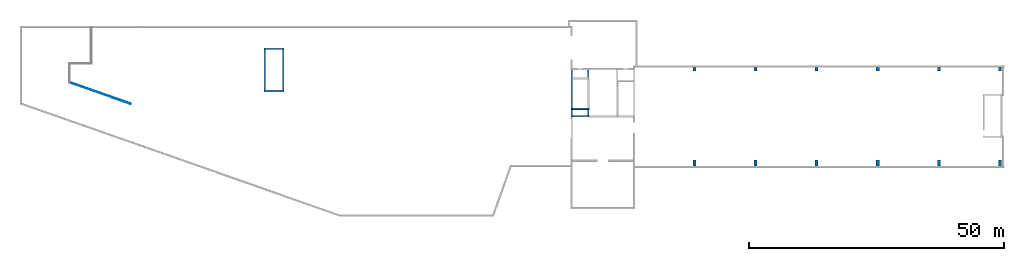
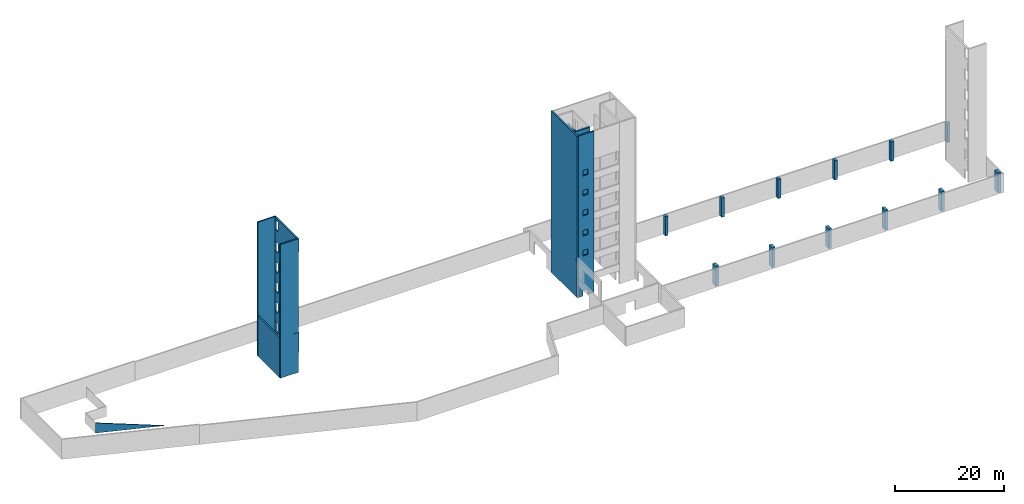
# One storey, part 1 of 4: 12 columns, 10 slabs.
"""IFC2X3 building model written with IfcOpenShell, lengths in millimetres."""

from ifc_helpers import new_model, si_unit, origin, place, context, project, spatial, faceted_brep, material, element, save


model = new_model("IFC2X3")

# Units and contexts
context_of_model = context(None, 3, precision=1e-05, world=origin())
ifc_project = project(units=[si_unit("LENGTHUNIT", "METRE", prefix="MILLI")], contexts=[context_of_model])

# Building, storey
building = spatial("IfcBuilding", under=ifc_project, Name="Building", CompositionType="ELEMENT")
storey = spatial("IfcBuildingStorey", under=building, Name="SHRWLS", CompositionType="ELEMENT")

# Columns
ifc_material_1 = material(Name="C5000")
column_1_placement = place(None, origin())
element("IfcColumn", 1, at=column_1_placement, inside=storey, material=ifc_material_1, Name="B788", context=context_of_model, shape_type="Brep", body=[
    faceted_brep([(72304.8, 26763.4, -4500.0), (72304.8, 27500.0, -4500.0), (72304.8, 27500.0, -152.4), (72304.8, 26763.4, -152.4), (71695.2, 27500.0, -4500.0), (71695.2, 27500.0, -152.4), (71695.2, 26763.4, -4500.0), (71695.2, 26763.4, -152.4)], [[[0, 1, 2, 3]], [[1, 4, 5, 2]], [[4, 6, 7, 5]], [[6, 0, 3, 7]], [[0, 6, 4, 1]], [[3, 2, 5, 7]]]),
])
ifc_material_2 = material(Name="C5000")
column_2_placement = place(None, origin())
element("IfcColumn", 2, at=column_2_placement, inside=storey, material=ifc_material_2, Name="B789", context=context_of_model, shape_type="Brep", body=[
    faceted_brep([(60304.8, 26763.4, -4500.0), (60304.8, 27500.0, -4500.0), (60304.8, 27500.0, -152.4), (60304.8, 26763.4, -152.4), (59695.2, 27500.0, -4500.0), (59695.2, 27500.0, -152.4), (59695.2, 26763.4, -4500.0), (59695.2, 26763.4, -152.4)], [[[0, 1, 2, 3]], [[1, 4, 5, 2]], [[4, 6, 7, 5]], [[6, 0, 3, 7]], [[0, 6, 4, 1]], [[3, 2, 5, 7]]]),
])
ifc_material_3 = material(Name="C5000")
column_3_placement = place(None, origin())
element("IfcColumn", 3, at=column_3_placement, inside=storey, material=ifc_material_3, Name="B790", context=context_of_model, shape_type="Brep", body=[
    faceted_brep([(48304.8, 26763.4, -4500.0), (48304.8, 27500.0, -4500.0), (48304.8, 27500.0, -152.4), (48304.8, 26763.4, -152.4), (47695.2, 27500.0, -4500.0), (47695.2, 27500.0, -152.4), (47695.2, 26763.4, -4500.0), (47695.2, 26763.4, -152.4)], [[[0, 1, 2, 3]], [[1, 4, 5, 2]], [[4, 6, 7, 5]], [[6, 0, 3, 7]], [[0, 6, 4, 1]], [[3, 2, 5, 7]]]),
])
ifc_material_4 = material(Name="C5000")
column_4_placement = place(None, origin())
element("IfcColumn", 4, at=column_4_placement, inside=storey, material=ifc_material_4, Name="B791", context=context_of_model, shape_type="Brep", body=[
    faceted_brep([(36304.8, 26763.4, -4500.0), (36304.8, 27500.0, -4500.0), (36304.8, 27500.0, -152.4), (36304.8, 26763.4, -152.4), (35695.2, 27500.0, -4500.0), (35695.2, 27500.0, -152.4), (35695.2, 26763.4, -4500.0), (35695.2, 26763.4, -152.4)], [[[0, 1, 2, 3]], [[1, 4, 5, 2]], [[4, 6, 7, 5]], [[6, 0, 3, 7]], [[0, 6, 4, 1]], [[3, 2, 5, 7]]]),
])
ifc_material_5 = material(Name="C5000")
column_5_placement = place(None, origin())
element("IfcColumn", 5, at=column_5_placement, inside=storey, material=ifc_material_5, Name="B792", context=context_of_model, shape_type="Brep", body=[
    faceted_brep([(24304.8, 26763.4, -4500.0), (24304.8, 27500.0, -4500.0), (24304.8, 27500.0, -152.4), (24304.8, 26763.4, -152.4), (23695.2, 27500.0, -4500.0), (23695.2, 27500.0, -152.4), (23695.2, 26763.4, -4500.0), (23695.2, 26763.4, -152.4)], [[[0, 1, 2, 3]], [[1, 4, 5, 2]], [[4, 6, 7, 5]], [[6, 0, 3, 7]], [[0, 6, 4, 1]], [[3, 2, 5, 7]]]),
])
ifc_material_6 = material(Name="C3000")
column_6_placement = place(None, origin())
element("IfcColumn", 6, at=column_6_placement, inside=storey, material=ifc_material_6, Name="B795", context=context_of_model, shape_type="Brep", body=[
    faceted_brep([(72304.8, 8100.0, -4500.0), (72304.8, 9293.8, -4500.0), (72304.8, 9293.8, 0.0), (72304.8, 8100.0, 0.0), (71695.2, 9293.8, -4500.0), (71695.2, 9293.8, 0.0), (71695.2, 8100.0, -4500.0), (71695.2, 8100.0, 0.0)], [[[0, 1, 2, 3]], [[1, 4, 5, 2]], [[4, 6, 7, 5]], [[6, 0, 3, 7]], [[0, 6, 4, 1]], [[3, 2, 5, 7]]]),
])
ifc_material_7 = material(Name="C3000")
column_7_placement = place(None, origin())
element("IfcColumn", 7, at=column_7_placement, inside=storey, material=ifc_material_7, Name="B796", context=context_of_model, shape_type="Brep", body=[
    faceted_brep([(60304.8, 8100.0, -4500.0), (60304.8, 9293.8, -4500.0), (60304.8, 9293.8, 0.0), (60304.8, 8100.0, 0.0), (59695.2, 9293.8, -4500.0), (59695.2, 9293.8, 0.0), (59695.2, 8100.0, -4500.0), (59695.2, 8100.0, 0.0)], [[[0, 1, 2, 3]], [[1, 4, 5, 2]], [[4, 6, 7, 5]], [[6, 0, 3, 7]], [[0, 6, 4, 1]], [[3, 2, 5, 7]]]),
])
ifc_material_8 = material(Name="C3000")
column_8_placement = place(None, origin())
element("IfcColumn", 8, at=column_8_placement, inside=storey, material=ifc_material_8, Name="B797", context=context_of_model, shape_type="Brep", body=[
    faceted_brep([(48304.8, 8100.0, -4500.0), (48304.8, 9293.8, -4500.0), (48304.8, 9293.8, 0.0), (48304.8, 8100.0, 0.0), (47695.2, 9293.8, -4500.0), (47695.2, 9293.8, 0.0), (47695.2, 8100.0, -4500.0), (47695.2, 8100.0, 0.0)], [[[0, 1, 2, 3]], [[1, 4, 5, 2]], [[4, 6, 7, 5]], [[6, 0, 3, 7]], [[0, 6, 4, 1]], [[3, 2, 5, 7]]]),
])
ifc_material_9 = material(Name="C3000")
column_9_placement = place(None, origin())
element("IfcColumn", 9, at=column_9_placement, inside=storey, material=ifc_material_9, Name="B798", context=context_of_model, shape_type="Brep", body=[
    faceted_brep([(36304.8, 8100.0, -4500.0), (36304.8, 9293.8, -4500.0), (36304.8, 9293.8, 0.0), (36304.8, 8100.0, 0.0), (35695.2, 9293.8, -4500.0), (35695.2, 9293.8, 0.0), (35695.2, 8100.0, -4500.0), (35695.2, 8100.0, 0.0)], [[[0, 1, 2, 3]], [[1, 4, 5, 2]], [[4, 6, 7, 5]], [[6, 0, 3, 7]], [[0, 6, 4, 1]], [[3, 2, 5, 7]]]),
])
ifc_material_10 = material(Name="C3000")
column_10_placement = place(None, origin())
element("IfcColumn", 10, at=column_10_placement, inside=storey, material=ifc_material_10, Name="B799", context=context_of_model, shape_type="Brep", body=[
    faceted_brep([(24304.8, 8100.0, -4500.0), (24304.8, 9293.8, -4500.0), (24304.8, 9293.8, 0.0), (24304.8, 8100.0, 0.0), (23695.2, 9293.8, -4500.0), (23695.2, 9293.8, 0.0), (23695.2, 8100.0, -4500.0), (23695.2, 8100.0, 0.0)], [[[0, 1, 2, 3]], [[1, 4, 5, 2]], [[4, 6, 7, 5]], [[6, 0, 3, 7]], [[0, 6, 4, 1]], [[3, 2, 5, 7]]]),
])
ifc_material_11 = material(Name="C3000")
column_11_placement = place(None, origin())
element("IfcColumn", 11, at=column_11_placement, inside=storey, material=ifc_material_11, Name="B1119", context=context_of_model, shape_type="Brep", body=[
    faceted_brep([(84304.8, 8100.0, -4500.0), (84304.8, 9293.8, -4500.0), (84304.8, 9293.8, 0.0), (84304.8, 8100.0, 0.0), (83695.2, 9293.8, -4500.0), (83695.2, 9293.8, 0.0), (83695.2, 8100.0, -4500.0), (83695.2, 8100.0, 0.0)], [[[0, 1, 2, 3]], [[1, 4, 5, 2]], [[4, 6, 7, 5]], [[6, 0, 3, 7]], [[0, 6, 4, 1]], [[3, 2, 5, 7]]]),
])
ifc_material_12 = material(Name="C5000")
column_12_placement = place(None, origin())
element("IfcColumn", 12, at=column_12_placement, inside=storey, material=ifc_material_12, Name="B1120", context=context_of_model, shape_type="Brep", body=[
    faceted_brep([(84304.8, 26763.4, -4500.0), (84304.8, 27500.0, -4500.0), (84304.8, 27500.0, -152.4), (84304.8, 26763.4, -152.4), (83695.2, 27500.0, -4500.0), (83695.2, 27500.0, -152.4), (83695.2, 26763.4, -4500.0), (83695.2, 26763.4, -152.4)], [[[0, 1, 2, 3]], [[1, 4, 5, 2]], [[4, 6, 7, 5]], [[6, 0, 3, 7]], [[0, 6, 4, 1]], [[3, 2, 5, 7]]]),
])

# Slabs
ifc_material_13 = material(Name="C5000")
slab_1_placement = place(None, origin())
element("IfcSlab", 13, at=slab_1_placement, inside=storey, material=ifc_material_13, Name="Wall84", PredefinedType="FLOOR", context=context_of_model, shape_type="Brep", body=[
    faceted_brep([(-60568.0, 23000.0, -1.38778e-14), (-60568.0, 23000.0, -4500.0), (-60268.0, 23000.0, -4500.0), (-60268.0, 23000.0, -1.38778e-14), (-60568.0, 31000.0, -4500.0), (-60268.0, 31000.0, -4500.0), (-60568.0, 31000.0, 9.4369e-13), (-60268.0, 31000.0, 9.4369e-13), (-60568.0, 31000.0, 3800.0), (-60568.0, 31000.0, 4500.0), (-60268.0, 31000.0, 4500.0), (-60268.0, 31000.0, 3800.0), (-60568.0, 23000.0, 4500.0), (-60268.0, 23000.0, 4500.0), (-60568.0, 23000.0, 3800.0), (-60268.0, 23000.0, 3800.0), (-60570.4, 31000.0, 3800.0), (-60570.4, 23000.0, 3800.0), (-60265.6, 23000.0, 3800.0), (-60265.6, 31000.0, 3800.0), (-60570.4, 23000.0, 64.0), (-60265.6, 23000.0, 64.0), (-60570.4, 23000.0, -1.38778e-14), (-60265.6, 23000.0, -1.38778e-14), (-60570.4, 31000.0, 9.4369e-13), (-60265.6, 31000.0, 9.4369e-13), (-60570.4, 31000.0, 64.0), (-60265.6, 31000.0, 64.0)], [[[0, 1, 2, 3]], [[1, 4, 5, 2]], [[4, 6, 7, 5]], [[6, 0, 3, 7]], [[3, 2, 5, 7]], [[0, 6, 4, 1]], [[8, 9, 10, 11]], [[9, 12, 13, 10]], [[12, 14, 15, 13]], [[14, 8, 11, 15]], [[11, 10, 13, 15]], [[8, 14, 12, 9]], [[16, 17, 18, 19]], [[17, 20, 21, 18]], [[20, 22, 23, 21]], [[22, 24, 25, 23]], [[24, 26, 27, 25]], [[26, 16, 19, 27]], [[19, 18, 21, 23, 25, 27]], [[16, 26, 24, 22, 20, 17]]]),
])
ifc_material_14 = material(Name="C5000")
slab_2_placement = place(None, origin())
element("IfcSlab", 14, at=slab_2_placement, inside=storey, material=ifc_material_14, Name="Wall85", PredefinedType="FLOOR", context=context_of_model, shape_type="Brep", body=[
    faceted_brep([(-60418.0, 22700.0, 25564.0), (-60418.0, 22700.0, 22500.0), (-60418.0, 23000.0, 22500.0), (-60418.0, 23000.0, 25564.0), (-56650.0, 22700.0, 22500.0), (-56650.0, 23000.0, 22500.0), (-56650.0, 22700.0, 18064.0), (-56650.0, 23000.0, 18064.0), (-56650.0, 22700.0, 13564.0), (-56650.0, 23000.0, 13564.0), (-56650.0, 22700.0, 9064.0), (-56650.0, 23000.0, 9064.0), (-56650.0, 22700.0, 4564.0), (-56650.0, 23000.0, 4564.0), (-56650.0, 22700.0, 4500.0), (-56650.0, 23000.0, 4500.0), (-60418.0, 22700.0, 4500.0), (-60418.0, 23000.0, 4500.0), (-60418.0, 22700.0, 0.0), (-60418.0, 23000.0, 0.0), (-56650.0, 22700.0, 0.0), (-56650.0, 23000.0, 0.0), (-56650.0, 22700.0, -4500.0), (-56650.0, 23000.0, -4500.0), (-60568.0, 22700.0, -4500.0), (-60568.0, 23000.0, -4500.0), (-60568.0, 22700.0, 25564.0), (-60568.0, 23000.0, 25564.0), (-56650.0, 22697.6, 22500.0), (-60418.0, 22697.6, 22500.0), (-60418.0, 23002.4, 22500.0), (-56650.0, 23002.4, 22500.0), (-60418.0, 22697.6, 25564.0), (-60418.0, 23002.4, 25564.0), (-56650.0, 22697.6, 25564.0), (-56650.0, 23002.4, 25564.0), (-56650.0, 22697.6, 0.0), (-60418.0, 22697.6, 0.0), (-60418.0, 23002.4, 0.0), (-56650.0, 23002.4, 0.0), (-60418.0, 22697.6, 4500.0), (-60418.0, 23002.4, 4500.0), (-56650.0, 22697.6, 4500.0), (-56650.0, 23002.4, 4500.0)], [[[0, 1, 2, 3]], [[1, 4, 5, 2]], [[4, 6, 7, 5]], [[6, 8, 9, 7]], [[8, 10, 11, 9]], [[10, 12, 13, 11]], [[12, 14, 15, 13]], [[14, 16, 17, 15]], [[16, 18, 19, 17]], [[18, 20, 21, 19]], [[20, 22, 23, 21]], [[22, 24, 25, 23]], [[24, 26, 27, 25]], [[26, 0, 3, 27]], [[3, 2, 5, 7, 9, 11, 13, 15, 17, 19, 21, 23, 25, 27]], [[0, 26, 24, 22, 20, 18, 16, 14, 12, 10, 8, 6, 4, 1]], [[28, 29, 30, 31]], [[29, 32, 33, 30]], [[32, 34, 35, 33]], [[34, 28, 31, 35]], [[31, 30, 33, 35]], [[28, 34, 32, 29]], [[36, 37, 38, 39]], [[37, 40, 41, 38]], [[40, 42, 43, 41]], [[42, 36, 39, 43]], [[39, 38, 41, 43]], [[36, 42, 40, 37]]]),
])
ifc_material_15 = material(Name="C5000")
slab_3_placement = place(None, origin())
element("IfcSlab", 15, at=slab_3_placement, inside=storey, material=ifc_material_15, Name="Wall86", PredefinedType="FLOOR", context=context_of_model, shape_type="Brep", body=[
    faceted_brep([(-56650.0, 22700.0, 22500.0), (-56650.0, 31300.0, 22500.0), (-56950.0, 31300.0, 22500.0), (-56950.0, 22700.0, 22500.0), (-56650.0, 31300.0, 18064.0), (-56950.0, 31300.0, 18064.0), (-56650.0, 31300.0, 13564.0), (-56950.0, 31300.0, 13564.0), (-56650.0, 31300.0, 9064.0), (-56950.0, 31300.0, 9064.0), (-56650.0, 31300.0, 4564.0), (-56950.0, 31300.0, 4564.0), (-56650.0, 31300.0, 4500.0), (-56950.0, 31300.0, 4500.0), (-56650.0, 30900.0, 4500.0), (-56950.0, 30900.0, 4500.0), (-56650.0, 30900.0, 6735.0), (-56950.0, 30900.0, 6735.0), (-56650.0, 29782.0, 6735.0), (-56950.0, 29782.0, 6735.0), (-56650.0, 29782.0, 4500.0), (-56950.0, 29782.0, 4500.0), (-56650.0, 22700.0, 4500.0), (-56950.0, 22700.0, 4500.0), (-56650.0, 22700.0, 4564.0), (-56950.0, 22700.0, 4564.0), (-56650.0, 22700.0, 9064.0), (-56950.0, 22700.0, 9064.0), (-56650.0, 22700.0, 13564.0), (-56950.0, 22700.0, 13564.0), (-56650.0, 22700.0, 18064.0), (-56950.0, 22700.0, 18064.0), (-56650.0, 29782.0, 11235.0), (-56650.0, 29782.0, 9000.0), (-56950.0, 29782.0, 9000.0), (-56950.0, 29782.0, 11235.0), (-56650.0, 30900.0, 9000.0), (-56950.0, 30900.0, 9000.0), (-56650.0, 30900.0, 11235.0), (-56950.0, 30900.0, 11235.0), (-56650.0, 29782.0, 15735.0), (-56650.0, 29782.0, 13500.0), (-56950.0, 29782.0, 13500.0), (-56950.0, 29782.0, 15735.0), (-56650.0, 30900.0, 13500.0), (-56950.0, 30900.0, 13500.0), (-56650.0, 30900.0, 15735.0), (-56950.0, 30900.0, 15735.0), (-56650.0, 29782.0, 20235.0), (-56650.0, 29782.0, 18000.0), (-56950.0, 29782.0, 18000.0), (-56950.0, 29782.0, 20235.0), (-56650.0, 30900.0, 18000.0), (-56950.0, 30900.0, 18000.0), (-56650.0, 30900.0, 20235.0), (-56950.0, 30900.0, 20235.0), (-56650.0, 30900.0, -4500.0), (-56650.0, 30900.0, -2265.0), (-56950.0, 30900.0, -2265.0), (-56950.0, 30900.0, -4500.0), (-56650.0, 29782.0, -2265.0), (-56950.0, 29782.0, -2265.0), (-56650.0, 29782.0, -4500.0), (-56950.0, 29782.0, -4500.0), (-56650.0, 22700.0, -4500.0), (-56950.0, 22700.0, -4500.0), (-56650.0, 22700.0, 0.0), (-56950.0, 22700.0, 0.0), (-56650.0, 29782.0, 0.0), (-56950.0, 29782.0, 0.0), (-56650.0, 30900.0, 0.0), (-56950.0, 30900.0, 0.0), (-56650.0, 31300.0, 0.0), (-56950.0, 31300.0, 0.0), (-56650.0, 31300.0, -4500.0), (-56950.0, 31300.0, -4500.0), (-56647.6, 31300.0, 22500.0), (-56647.6, 22700.0, 22500.0), (-56952.4, 22700.0, 22500.0), (-56952.4, 31300.0, 22500.0), (-56647.6, 22700.0, 25564.0), (-56952.4, 22700.0, 25564.0), (-56647.6, 31300.0, 25564.0), (-56952.4, 31300.0, 25564.0), (-56647.6, 29782.0, 25085.0), (-56647.6, 29782.0, 22850.0), (-56952.4, 29782.0, 22850.0), (-56952.4, 29782.0, 25085.0), (-56647.6, 30900.0, 22850.0), (-56952.4, 30900.0, 22850.0), (-56647.6, 30900.0, 25085.0), (-56952.4, 30900.0, 25085.0), (-56647.6, 22700.0, 4500.0), (-56647.6, 29782.0, 4500.0), (-56952.4, 29782.0, 4500.0), (-56952.4, 22700.0, 4500.0), (-56647.6, 30900.0, 4500.0), (-56952.4, 30900.0, 4500.0), (-56647.6, 31300.0, 4500.0), (-56952.4, 31300.0, 4500.0), (-56647.6, 31300.0, 0.0), (-56952.4, 31300.0, 0.0), (-56647.6, 30900.0, 0.0), (-56952.4, 30900.0, 0.0), (-56647.6, 30900.0, 2235.0), (-56952.4, 30900.0, 2235.0), (-56647.6, 29782.0, 2235.0), (-56952.4, 29782.0, 2235.0), (-56647.6, 29782.0, 0.0), (-56952.4, 29782.0, 0.0), (-56647.6, 22700.0, 0.0), (-56952.4, 22700.0, 0.0)], [[[0, 1, 2, 3]], [[1, 4, 5, 2]], [[4, 6, 7, 5]], [[6, 8, 9, 7]], [[8, 10, 11, 9]], [[10, 12, 13, 11]], [[12, 14, 15, 13]], [[14, 16, 17, 15]], [[16, 18, 19, 17]], [[18, 20, 21, 19]], [[20, 22, 23, 21]], [[22, 24, 25, 23]], [[24, 26, 27, 25]], [[26, 28, 29, 27]], [[28, 30, 31, 29]], [[30, 0, 3, 31]], [[32, 33, 34, 35]], [[33, 36, 37, 34]], [[36, 38, 39, 37]], [[38, 32, 35, 39]], [[40, 41, 42, 43]], [[41, 44, 45, 42]], [[44, 46, 47, 45]], [[46, 40, 43, 47]], [[48, 49, 50, 51]], [[49, 52, 53, 50]], [[52, 54, 55, 53]], [[54, 48, 51, 55]], [[3, 2, 5, 7, 9, 11, 13, 15, 17, 19, 21, 23, 25, 27, 29, 31], [35, 34, 37, 39], [43, 42, 45, 47], [51, 50, 53, 55]], [[0, 30, 28, 26, 24, 22, 20, 18, 16, 14, 12, 10, 8, 6, 4, 1], [32, 38, 36, 33], [40, 46, 44, 41], [48, 54, 52, 49]], [[56, 57, 58, 59]], [[57, 60, 61, 58]], [[60, 62, 63, 61]], [[62, 64, 65, 63]], [[64, 66, 67, 65]], [[66, 68, 69, 67]], [[68, 70, 71, 69]], [[70, 72, 73, 71]], [[72, 74, 75, 73]], [[74, 56, 59, 75]], [[59, 58, 61, 63, 65, 67, 69, 71, 73, 75]], [[56, 74, 72, 70, 68, 66, 64, 62, 60, 57]], [[76, 77, 78, 79]], [[77, 80, 81, 78]], [[80, 82, 83, 81]], [[82, 76, 79, 83]], [[84, 85, 86, 87]], [[85, 88, 89, 86]], [[88, 90, 91, 89]], [[90, 84, 87, 91]], [[79, 78, 81, 83], [87, 86, 89, 91]], [[76, 82, 80, 77], [84, 90, 88, 85]], [[92, 93, 94, 95]], [[93, 96, 97, 94]], [[96, 98, 99, 97]], [[98, 100, 101, 99]], [[100, 102, 103, 101]], [[102, 104, 105, 103]], [[104, 106, 107, 105]], [[106, 108, 109, 107]], [[108, 110, 111, 109]], [[110, 92, 95, 111]], [[95, 94, 97, 99, 101, 103, 105, 107, 109, 111]], [[92, 110, 108, 106, 104, 102, 100, 98, 96, 93]]]),
])
ifc_material_16 = material(Name="C5000")
slab_4_placement = place(None, origin())
element("IfcSlab", 16, at=slab_4_placement, inside=storey, material=ifc_material_16, Name="Wall93", PredefinedType="FLOOR", context=context_of_model, shape_type="Brep", body=[
    faceted_brep([(2059.0, 17700.0, -4500.0), (2059.0, 17700.0, -3265.0), (2059.0, 18000.0, -3265.0), (2059.0, 18000.0, -4500.0), (941.0, 17700.0, -3265.0), (941.0, 18000.0, -3265.0), (941.0, 17700.0, -4500.0), (941.0, 18000.0, -4500.0), (0.0, 17700.0, -4500.0), (0.0, 18000.0, -4500.0), (0.0, 17700.0, 0.0), (0.0, 18000.0, 0.0), (0.0, 17700.0, 4500.0), (0.0, 18000.0, 4500.0), (0.0, 17700.0, 9000.0), (0.0, 18000.0, 9000.0), (0.0, 17700.0, 13500.0), (0.0, 18000.0, 13500.0), (0.0, 17700.0, 18000.0), (0.0, 18000.0, 18000.0), (0.0, 17700.0, 22500.0), (0.0, 18000.0, 22500.0), (0.0, 17700.0, 31800.0), (0.0, 18000.0, 31800.0), (3300.0, 17700.0, 31800.0), (3300.0, 18000.0, 31800.0), (3300.0, 17700.0, 22500.0), (3300.0, 18000.0, 22500.0), (3300.0, 17700.0, 18000.0), (3300.0, 18000.0, 18000.0), (3300.0, 17700.0, 13500.0), (3300.0, 18000.0, 13500.0), (3300.0, 17700.0, 9000.0), (3300.0, 18000.0, 9000.0), (3300.0, 17700.0, 4500.0), (3300.0, 18000.0, 4500.0), (3300.0, 17700.0, 0.0), (3300.0, 18000.0, 0.0), (3300.0, 17700.0, -4500.0), (3300.0, 18000.0, -4500.0), (941.0, 17700.0, 4500.0), (2059.0, 17700.0, 4500.0), (2059.0, 18000.0, 4500.0), (941.0, 18000.0, 4500.0), (2059.0, 17700.0, 5735.0), (2059.0, 18000.0, 5735.0), (941.0, 17700.0, 5735.0), (941.0, 18000.0, 5735.0), (941.0, 17700.0, 9000.0), (2059.0, 17700.0, 9000.0), (2059.0, 18000.0, 9000.0), (941.0, 18000.0, 9000.0), (2059.0, 17700.0, 10235.0), (2059.0, 18000.0, 10235.0), (941.0, 17700.0, 10235.0), (941.0, 18000.0, 10235.0), (941.0, 17700.0, 13500.0), (2059.0, 17700.0, 13500.0), (2059.0, 18000.0, 13500.0), (941.0, 18000.0, 13500.0), (2059.0, 17700.0, 14735.0), (2059.0, 18000.0, 14735.0), (941.0, 17700.0, 14735.0), (941.0, 18000.0, 14735.0), (941.0, 17700.0, 18021.2), (2059.0, 17700.0, 18021.2), (2059.0, 18000.0, 18021.2), (941.0, 18000.0, 18021.2), (2059.0, 17700.0, 19256.2), (2059.0, 18000.0, 19256.2), (941.0, 17700.0, 19256.2), (941.0, 18000.0, 19256.2), (941.0, 17700.0, 22500.0), (2059.0, 17700.0, 22500.0), (2059.0, 18000.0, 22500.0), (941.0, 18000.0, 22500.0), (2059.0, 17700.0, 23735.0), (2059.0, 18000.0, 23735.0), (941.0, 17700.0, 23735.0), (941.0, 18000.0, 23735.0)], [[[0, 1, 2, 3]], [[1, 4, 5, 2]], [[4, 6, 7, 5]], [[6, 8, 9, 7]], [[8, 10, 11, 9]], [[10, 12, 13, 11]], [[12, 14, 15, 13]], [[14, 16, 17, 15]], [[16, 18, 19, 17]], [[18, 20, 21, 19]], [[20, 22, 23, 21]], [[22, 24, 25, 23]], [[24, 26, 27, 25]], [[26, 28, 29, 27]], [[28, 30, 31, 29]], [[30, 32, 33, 31]], [[32, 34, 35, 33]], [[34, 36, 37, 35]], [[36, 38, 39, 37]], [[38, 0, 3, 39]], [[40, 41, 42, 43]], [[41, 44, 45, 42]], [[44, 46, 47, 45]], [[46, 40, 43, 47]], [[48, 49, 50, 51]], [[49, 52, 53, 50]], [[52, 54, 55, 53]], [[54, 48, 51, 55]], [[56, 57, 58, 59]], [[57, 60, 61, 58]], [[60, 62, 63, 61]], [[62, 56, 59, 63]], [[64, 65, 66, 67]], [[65, 68, 69, 66]], [[68, 70, 71, 69]], [[70, 64, 67, 71]], [[72, 73, 74, 75]], [[73, 76, 77, 74]], [[76, 78, 79, 77]], [[78, 72, 75, 79]], [[3, 2, 5, 7, 9, 11, 13, 15, 17, 19, 21, 23, 25, 27, 29, 31, 33, 35, 37, 39], [43, 42, 45, 47], [51, 50, 53, 55], [59, 58, 61, 63], [67, 66, 69, 71], [75, 74, 77, 79]], [[0, 38, 36, 34, 32, 30, 28, 26, 24, 22, 20, 18, 16, 14, 12, 10, 8, 6, 4, 1], [40, 46, 44, 41], [48, 54, 52, 49], [56, 62, 60, 57], [64, 70, 68, 65], [72, 78, 76, 73]]]),
])
ifc_material_17 = material(Name="C5000")
slab_5_placement = place(None, origin())
element("IfcSlab", 17, at=slab_5_placement, inside=storey, material=ifc_material_17, Name="Wall113", PredefinedType="FLOOR", context=context_of_model, shape_type="Brep", body=[
    faceted_brep([(3300.0, 20365.0, -4500.0), (3300.0, 18000.0, -4500.0), (3000.0, 18000.0, -4500.0), (3000.0, 20365.0, -4500.0), (3300.0, 18000.0, 0.0), (3000.0, 18000.0, 0.0), (3300.0, 18000.0, 4500.0), (3000.0, 18000.0, 4500.0), (3300.0, 18000.0, 9000.0), (3000.0, 18000.0, 9000.0), (3300.0, 18000.0, 13500.0), (3000.0, 18000.0, 13500.0), (3300.0, 18000.0, 18000.0), (3000.0, 18000.0, 18000.0), (3300.0, 18000.0, 22500.0), (3000.0, 18000.0, 22500.0), (3300.0, 18000.0, 28000.0), (3000.0, 18000.0, 28000.0), (3300.0, 27000.0, 28000.0), (3000.0, 27000.0, 28000.0), (3300.0, 27000.0, 22500.0), (3000.0, 27000.0, 22500.0), (3300.0, 27000.0, 18000.0), (3000.0, 27000.0, 18000.0), (3300.0, 27000.0, 13500.0), (3000.0, 27000.0, 13500.0), (3300.0, 27000.0, 9000.0), (3000.0, 27000.0, 9000.0), (3300.0, 27000.0, 4500.0), (3000.0, 27000.0, 4500.0), (3300.0, 27000.0, 0.0), (3000.0, 27000.0, 0.0), (3300.0, 27000.0, -4500.0), (3000.0, 27000.0, -4500.0), (3300.0, 24635.0, -4500.0), (3000.0, 24635.0, -4500.0), (3300.0, 24635.0, -2037.0), (3000.0, 24635.0, -2037.0), (3300.0, 23365.0, -2037.0), (3000.0, 23365.0, -2037.0), (3300.0, 23365.0, -4500.0), (3000.0, 23365.0, -4500.0), (3300.0, 21635.0, -4500.0), (3000.0, 21635.0, -4500.0), (3300.0, 21635.0, -2037.0), (3000.0, 21635.0, -2037.0), (3300.0, 20365.0, -2037.0), (3000.0, 20365.0, -2037.0), (3300.0, 20365.0, 2463.0), (3300.0, 20365.0, 0.0), (3000.0, 20365.0, 0.0), (3000.0, 20365.0, 2463.0), (3300.0, 21635.0, 0.0), (3000.0, 21635.0, 0.0), (3300.0, 21635.0, 2463.0), (3000.0, 21635.0, 2463.0), (3300.0, 23365.0, 2463.0), (3300.0, 23365.0, 0.0), (3000.0, 23365.0, 0.0), (3000.0, 23365.0, 2463.0), (3300.0, 24635.0, 0.0), (3000.0, 24635.0, 0.0), (3300.0, 24635.0, 2463.0), (3000.0, 24635.0, 2463.0), (3300.0, 20365.0, 6963.0), (3300.0, 20365.0, 4500.0), (3000.0, 20365.0, 4500.0), (3000.0, 20365.0, 6963.0), (3300.0, 21635.0, 4500.0), (3000.0, 21635.0, 4500.0), (3300.0, 21635.0, 6963.0), (3000.0, 21635.0, 6963.0), (3300.0, 23365.0, 6963.0), (3300.0, 23365.0, 4500.0), (3000.0, 23365.0, 4500.0), (3000.0, 23365.0, 6963.0), (3300.0, 24635.0, 4500.0), (3000.0, 24635.0, 4500.0), (3300.0, 24635.0, 6963.0), (3000.0, 24635.0, 6963.0), (3300.0, 20365.0, 11463.0), (3300.0, 20365.0, 9000.0), (3000.0, 20365.0, 9000.0), (3000.0, 20365.0, 11463.0), (3300.0, 21635.0, 9000.0), (3000.0, 21635.0, 9000.0), (3300.0, 21635.0, 11463.0), (3000.0, 21635.0, 11463.0), (3300.0, 23365.0, 11463.0), (3300.0, 23365.0, 9000.0), (3000.0, 23365.0, 9000.0), (3000.0, 23365.0, 11463.0), (3300.0, 24635.0, 9000.0), (3000.0, 24635.0, 9000.0), (3300.0, 24635.0, 11463.0), (3000.0, 24635.0, 11463.0), (3300.0, 20365.0, 15963.0), (3300.0, 20365.0, 13500.0), (3000.0, 20365.0, 13500.0), (3000.0, 20365.0, 15963.0), (3300.0, 21635.0, 13500.0), (3000.0, 21635.0, 13500.0), (3300.0, 21635.0, 15963.0), (3000.0, 21635.0, 15963.0), (3300.0, 23365.0, 15963.0), (3300.0, 23365.0, 13500.0), (3000.0, 23365.0, 13500.0), (3000.0, 23365.0, 15963.0), (3300.0, 24635.0, 13500.0), (3000.0, 24635.0, 13500.0), (3300.0, 24635.0, 15963.0), (3000.0, 24635.0, 15963.0), (3300.0, 20365.0, 20463.0), (3300.0, 20365.0, 18000.0), (3000.0, 20365.0, 18000.0), (3000.0, 20365.0, 20463.0), (3300.0, 21635.0, 18000.0), (3000.0, 21635.0, 18000.0), (3300.0, 21635.0, 20463.0), (3000.0, 21635.0, 20463.0), (3300.0, 23365.0, 20463.0), (3300.0, 23365.0, 18000.0), (3000.0, 23365.0, 18000.0), (3000.0, 23365.0, 20463.0), (3300.0, 24635.0, 18000.0), (3000.0, 24635.0, 18000.0), (3300.0, 24635.0, 20463.0), (3000.0, 24635.0, 20463.0), (3300.0, 20365.0, 24963.0), (3300.0, 20365.0, 22500.0), (3000.0, 20365.0, 22500.0), (3000.0, 20365.0, 24963.0), (3300.0, 21635.0, 22500.0), (3000.0, 21635.0, 22500.0), (3300.0, 21635.0, 24963.0), (3000.0, 21635.0, 24963.0), (3300.0, 23365.0, 24963.0), (3300.0, 23365.0, 22500.0), (3000.0, 23365.0, 22500.0), (3000.0, 23365.0, 24963.0), (3300.0, 24635.0, 22500.0), (3000.0, 24635.0, 22500.0), (3300.0, 24635.0, 24963.0), (3000.0, 24635.0, 24963.0)], [[[0, 1, 2, 3]], [[1, 4, 5, 2]], [[4, 6, 7, 5]], [[6, 8, 9, 7]], [[8, 10, 11, 9]], [[10, 12, 13, 11]], [[12, 14, 15, 13]], [[14, 16, 17, 15]], [[16, 18, 19, 17]], [[18, 20, 21, 19]], [[20, 22, 23, 21]], [[22, 24, 25, 23]], [[24, 26, 27, 25]], [[26, 28, 29, 27]], [[28, 30, 31, 29]], [[30, 32, 33, 31]], [[32, 34, 35, 33]], [[34, 36, 37, 35]], [[36, 38, 39, 37]], [[38, 40, 41, 39]], [[40, 42, 43, 41]], [[42, 44, 45, 43]], [[44, 46, 47, 45]], [[46, 0, 3, 47]], [[48, 49, 50, 51]], [[49, 52, 53, 50]], [[52, 54, 55, 53]], [[54, 48, 51, 55]], [[56, 57, 58, 59]], [[57, 60, 61, 58]], [[60, 62, 63, 61]], [[62, 56, 59, 63]], [[64, 65, 66, 67]], [[65, 68, 69, 66]], [[68, 70, 71, 69]], [[70, 64, 67, 71]], [[72, 73, 74, 75]], [[73, 76, 77, 74]], [[76, 78, 79, 77]], [[78, 72, 75, 79]], [[80, 81, 82, 83]], [[81, 84, 85, 82]], [[84, 86, 87, 85]], [[86, 80, 83, 87]], [[88, 89, 90, 91]], [[89, 92, 93, 90]], [[92, 94, 95, 93]], [[94, 88, 91, 95]], [[96, 97, 98, 99]], [[97, 100, 101, 98]], [[100, 102, 103, 101]], [[102, 96, 99, 103]], [[104, 105, 106, 107]], [[105, 108, 109, 106]], [[108, 110, 111, 109]], [[110, 104, 107, 111]], [[112, 113, 114, 115]], [[113, 116, 117, 114]], [[116, 118, 119, 117]], [[118, 112, 115, 119]], [[120, 121, 122, 123]], [[121, 124, 125, 122]], [[124, 126, 127, 125]], [[126, 120, 123, 127]], [[128, 129, 130, 131]], [[129, 132, 133, 130]], [[132, 134, 135, 133]], [[134, 128, 131, 135]], [[136, 137, 138, 139]], [[137, 140, 141, 138]], [[140, 142, 143, 141]], [[142, 136, 139, 143]], [[3, 2, 5, 7, 9, 11, 13, 15, 17, 19, 21, 23, 25, 27, 29, 31, 33, 35, 37, 39, 41, 43, 45, 47], [51, 50, 53, 55], [59, 58, 61, 63], [67, 66, 69, 71], [75, 74, 77, 79], [83, 82, 85, 87], [91, 90, 93, 95], [99, 98, 101, 103], [107, 106, 109, 111], [115, 114, 117, 119], [123, 122, 125, 127], [131, 130, 133, 135], [139, 138, 141, 143]], [[0, 46, 44, 42, 40, 38, 36, 34, 32, 30, 28, 26, 24, 22, 20, 18, 16, 14, 12, 10, 8, 6, 4, 1], [48, 54, 52, 49], [56, 62, 60, 57], [64, 70, 68, 65], [72, 78, 76, 73], [80, 86, 84, 81], [88, 94, 92, 89], [96, 102, 100, 97], [104, 110, 108, 105], [112, 118, 116, 113], [120, 126, 124, 121], [128, 134, 132, 129], [136, 142, 140, 137]]]),
])
ifc_material_18 = material(Name="C4000")
slab_6_placement = place(None, origin())
element("IfcSlab", 18, at=slab_6_placement, inside=storey, material=ifc_material_18, Name="Wall150", PredefinedType="FLOOR", context=context_of_model, shape_type="Brep", body=[
    faceted_brep([(-86657.1, 20367.1, -4500.0), (-98695.2, 24599.3, -2250.0), (-98846.4, 24490.9, -2231.18), (-86707.6, 20223.3, -4500.0), (-98695.2, 24599.3, -4500.0), (-98846.4, 24490.9, -4500.0)], [[[0, 1, 2, 3]], [[1, 4, 5, 2]], [[4, 0, 3, 5]], [[3, 2, 5]], [[0, 4, 1]]]),
])
ifc_material_19 = material(Name="C5000")
slab_7_placement = place(None, origin())
element("IfcSlab", 19, at=slab_7_placement, inside=storey, material=ifc_material_19, Name="Wall166", PredefinedType="FLOOR", context=context_of_model, shape_type="Brep", body=[
    faceted_brep([(0.0, 18000.0, 31800.0), (0.0, 18000.0, 22500.0), (-300.0, 18000.0, 22500.0), (-300.0, 18000.0, 31800.0), (0.0, 27000.0, 22500.0), (-300.0, 27000.0, 22500.0), (0.0, 27000.0, 31800.0), (-300.0, 27000.0, 31800.0), (0.0, 27300.0, 31800.0), (-300.0, 27300.0, 31800.0), (0.0, 27300.0, 22500.0), (-300.0, 27300.0, 22500.0), (0.0, 27300.0, 18000.0), (-300.0, 27300.0, 18000.0), (0.0, 27300.0, 13500.0), (-300.0, 27300.0, 13500.0), (0.0, 27300.0, 9000.0), (-300.0, 27300.0, 9000.0), (0.0, 27300.0, 4500.0), (-300.0, 27300.0, 4500.0), (0.0, 27300.0, 0.0), (-300.0, 27300.0, 0.0), (0.0, 27300.0, -4500.0), (-300.0, 27300.0, -4500.0), (0.0, 17700.0, -4500.0), (-300.0, 17700.0, -4500.0), (0.0, 17700.0, 0.0), (-300.0, 17700.0, 0.0), (0.0, 17700.0, 4500.0), (-300.0, 17700.0, 4500.0), (0.0, 17700.0, 9000.0), (-300.0, 17700.0, 9000.0), (0.0, 17700.0, 13500.0), (-300.0, 17700.0, 13500.0), (0.0, 17700.0, 18000.0), (-300.0, 17700.0, 18000.0), (0.0, 17700.0, 22500.0), (-300.0, 17700.0, 22500.0), (0.0, 17700.0, 31800.0), (-300.0, 17700.0, 31800.0), (0.0, 18000.0, 3800.0), (0.0, 18000.0, 0.0), (-300.0, 18000.0, 0.0), (-300.0, 18000.0, 3800.0), (0.0, 27000.0, 0.0), (-300.0, 27000.0, 0.0), (0.0, 27000.0, 3800.0), (-300.0, 27000.0, 3800.0), (2.4, 27000.0, 31800.0), (2.4, 27000.0, 22500.0), (-302.4, 27000.0, 22500.0), (-302.4, 27000.0, 31800.0), (2.4, 18000.0, 22500.0), (-302.4, 18000.0, 22500.0), (2.4, 18000.0, 31800.0), (-302.4, 18000.0, 31800.0), (2.4, 18000.0, 3800.0), (2.4, 27000.0, 3800.0), (-302.4, 27000.0, 3800.0), (-302.4, 18000.0, 3800.0), (2.4, 27000.0, 0.0), (-302.4, 27000.0, 0.0), (2.4, 18000.0, 0.0), (-302.4, 18000.0, 0.0)], [[[0, 1, 2, 3]], [[1, 4, 5, 2]], [[4, 6, 7, 5]], [[6, 8, 9, 7]], [[8, 10, 11, 9]], [[10, 12, 13, 11]], [[12, 14, 15, 13]], [[14, 16, 17, 15]], [[16, 18, 19, 17]], [[18, 20, 21, 19]], [[20, 22, 23, 21]], [[22, 24, 25, 23]], [[24, 26, 27, 25]], [[26, 28, 29, 27]], [[28, 30, 31, 29]], [[30, 32, 33, 31]], [[32, 34, 35, 33]], [[34, 36, 37, 35]], [[36, 38, 39, 37]], [[38, 0, 3, 39]], [[40, 41, 42, 43]], [[41, 44, 45, 42]], [[44, 46, 47, 45]], [[46, 40, 43, 47]], [[3, 2, 5, 7, 9, 11, 13, 15, 17, 19, 21, 23, 25, 27, 29, 31, 33, 35, 37, 39], [43, 42, 45, 47]], [[0, 38, 36, 34, 32, 30, 28, 26, 24, 22, 20, 18, 16, 14, 12, 10, 8, 6, 4, 1], [40, 46, 44, 41]], [[48, 49, 50, 51]], [[49, 52, 53, 50]], [[52, 54, 55, 53]], [[54, 48, 51, 55]], [[51, 50, 53, 55]], [[48, 54, 52, 49]], [[56, 57, 58, 59]], [[57, 60, 61, 58]], [[60, 62, 63, 61]], [[62, 56, 59, 63]], [[59, 58, 61, 63]], [[56, 62, 60, 57]]]),
])
ifc_material_20 = material(Name="C5000")
slab_8_placement = place(None, origin())
element("IfcSlab", 20, at=slab_8_placement, inside=storey, material=ifc_material_20, Name="Wall177", PredefinedType="FLOOR", context=context_of_model, shape_type="Brep", body=[
    faceted_brep([(-60418.0, 31000.0, 25564.0), (-60418.0, 31000.0, 22500.0), (-60418.0, 31300.0, 22500.0), (-60418.0, 31300.0, 25564.0), (-56650.0, 31000.0, 22500.0), (-56650.0, 31300.0, 22500.0), (-56650.0, 31000.0, 18064.0), (-56650.0, 31300.0, 18064.0), (-56650.0, 31000.0, 13564.0), (-56650.0, 31300.0, 13564.0), (-56650.0, 31000.0, 9064.0), (-56650.0, 31300.0, 9064.0), (-56650.0, 31000.0, 4564.0), (-56650.0, 31300.0, 4564.0), (-56650.0, 31000.0, 4500.0), (-56650.0, 31300.0, 4500.0), (-60418.0, 31000.0, 4500.0), (-60418.0, 31300.0, 4500.0), (-60418.0, 31000.0, 0.0), (-60418.0, 31300.0, 0.0), (-56650.0, 31000.0, 0.0), (-56650.0, 31300.0, 0.0), (-56650.0, 31000.0, -4500.0), (-56650.0, 31300.0, -4500.0), (-60568.0, 31000.0, -4500.0), (-60568.0, 31300.0, -4500.0), (-60568.0, 31000.0, 25564.0), (-60568.0, 31300.0, 25564.0), (-56650.0, 30997.6, 22500.0), (-60418.0, 30997.6, 22500.0), (-60418.0, 31302.4, 22500.0), (-56650.0, 31302.4, 22500.0), (-60418.0, 30997.6, 25564.0), (-60418.0, 31302.4, 25564.0), (-56650.0, 30997.6, 25564.0), (-56650.0, 31302.4, 25564.0), (-56650.0, 30997.6, 0.0), (-60418.0, 30997.6, 0.0), (-60418.0, 31302.4, 0.0), (-56650.0, 31302.4, 0.0), (-60418.0, 30997.6, 4500.0), (-60418.0, 31302.4, 4500.0), (-56650.0, 30997.6, 4500.0), (-56650.0, 31302.4, 4500.0)], [[[0, 1, 2, 3]], [[1, 4, 5, 2]], [[4, 6, 7, 5]], [[6, 8, 9, 7]], [[8, 10, 11, 9]], [[10, 12, 13, 11]], [[12, 14, 15, 13]], [[14, 16, 17, 15]], [[16, 18, 19, 17]], [[18, 20, 21, 19]], [[20, 22, 23, 21]], [[22, 24, 25, 23]], [[24, 26, 27, 25]], [[26, 0, 3, 27]], [[3, 2, 5, 7, 9, 11, 13, 15, 17, 19, 21, 23, 25, 27]], [[0, 26, 24, 22, 20, 18, 16, 14, 12, 10, 8, 6, 4, 1]], [[28, 29, 30, 31]], [[29, 32, 33, 30]], [[32, 34, 35, 33]], [[34, 28, 31, 35]], [[31, 30, 33, 35]], [[28, 34, 32, 29]], [[36, 37, 38, 39]], [[37, 40, 41, 38]], [[40, 42, 43, 41]], [[42, 36, 39, 43]], [[39, 38, 41, 43]], [[36, 42, 40, 37]]]),
])
ifc_material_21 = material(Name="C5000")
slab_9_placement = place(None, origin())
element("IfcSlab", 21, at=slab_9_placement, inside=storey, material=ifc_material_21, Name="Wall203", PredefinedType="FLOOR", context=context_of_model, shape_type="Brep", body=[
    faceted_brep([(3300.0, 19192.8, 0.0), (3300.0, 19192.8, -4500.0), (3300.0, 19492.8, -4500.0), (3300.0, 19492.8, 0.0), (0.0, 19192.8, -4500.0), (0.0, 19492.8, -4500.0), (0.0, 19192.8, 0.0), (0.0, 19492.8, 0.0), (0.0, 19192.8, 4500.0), (0.0, 19492.8, 4500.0), (0.0, 19192.8, 9000.0), (0.0, 19492.8, 9000.0), (0.0, 19192.8, 13500.0), (0.0, 19492.8, 13500.0), (0.0, 19192.8, 18000.0), (0.0, 19492.8, 18000.0), (0.0, 19192.8, 22500.0), (0.0, 19492.8, 22500.0), (0.0, 19192.8, 28000.0), (0.0, 19492.8, 28000.0), (3300.0, 19192.8, 28000.0), (3300.0, 19492.8, 28000.0), (3300.0, 19192.8, 22500.0), (3300.0, 19492.8, 22500.0), (3300.0, 19192.8, 18000.0), (3300.0, 19492.8, 18000.0), (3300.0, 19192.8, 13500.0), (3300.0, 19492.8, 13500.0), (3300.0, 19192.8, 9000.0), (3300.0, 19492.8, 9000.0), (3300.0, 19192.8, 4500.0), (3300.0, 19492.8, 4500.0)], [[[0, 1, 2, 3]], [[1, 4, 5, 2]], [[4, 6, 7, 5]], [[6, 8, 9, 7]], [[8, 10, 11, 9]], [[10, 12, 13, 11]], [[12, 14, 15, 13]], [[14, 16, 17, 15]], [[16, 18, 19, 17]], [[18, 20, 21, 19]], [[20, 22, 23, 21]], [[22, 24, 25, 23]], [[24, 26, 27, 25]], [[26, 28, 29, 27]], [[28, 30, 31, 29]], [[30, 0, 3, 31]], [[3, 2, 5, 7, 9, 11, 13, 15, 17, 19, 21, 23, 25, 27, 29, 31]], [[0, 30, 28, 26, 24, 22, 20, 18, 16, 14, 12, 10, 8, 6, 4, 1]]]),
])
ifc_material_22 = material(Name="C4000")
slab_10_placement = place(None, origin())
element("IfcSlab", 22, at=slab_10_placement, inside=storey, material=ifc_material_22, Name="Wall221", PredefinedType="FLOOR", context=context_of_model, shape_type="Brep", body=[
    faceted_brep([(3300.0, 19192.8, 28000.0), (0.0, 19192.8, 28000.0), (0.0, 19492.8, 28000.0), (3300.0, 19492.8, 28000.0), (0.0, 19192.8, 31800.0), (0.0, 19492.8, 31800.0), (3300.0, 19192.8, 31800.0), (3300.0, 19492.8, 31800.0)], [[[0, 1, 2, 3]], [[1, 4, 5, 2]], [[4, 6, 7, 5]], [[6, 0, 3, 7]], [[3, 2, 5, 7]], [[0, 6, 4, 1]]]),
])

save(model, "model.ifc")
